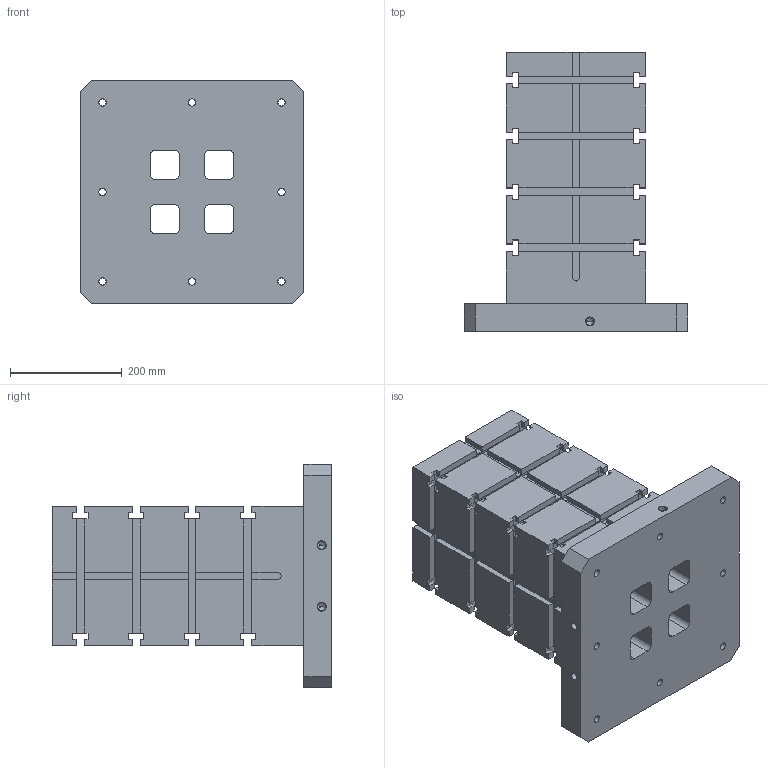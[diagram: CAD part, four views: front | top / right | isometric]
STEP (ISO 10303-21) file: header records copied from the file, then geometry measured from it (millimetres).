
FILE_DESCRIPTION((''),'2;1');
FILE_NAME('FG_WH_TOMB_SQTSLNP001','2026-05-19T16:14:10',('Admin'),(''),'CREO PARAMETRIC BY PTC INC, 2025010','CREO PARAMETRIC BY PTC INC, 2025010','');
FILE_SCHEMA(('CONFIG_CONTROL_DESIGN'));
Length unit declared in the file: millimetre
Products named in the file (1): FG_WH_TOMB_SQTSLNP001
Bounding box: 400 x 500 x 400 mm (x, y, z)
Volume: 22081090.4 mm3; surface area: 1557856.3 mm2
Topology: 1 solids, 4 shells, 528 faces, 1500 edges, 997 vertices
Faces by surface type: plane 432, cylinder 90, cone 6
Entity records: 17038 total; most frequent: CARTESIAN_POINT 3020, ORIENTED_EDGE 2976, DIRECTION 2738, EDGE_CURVE 1494, VECTOR 1308, LINE 1308, VERTEX_POINT 997, AXIS2_PLACEMENT_3D 715
